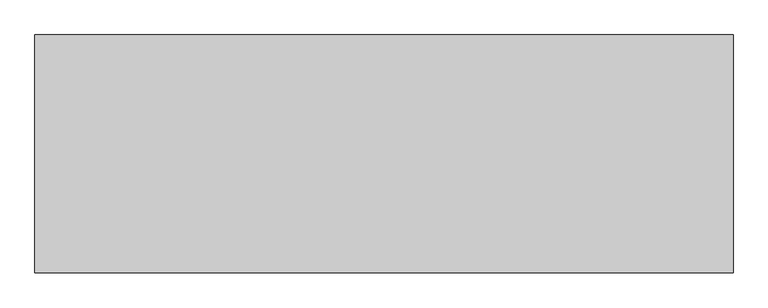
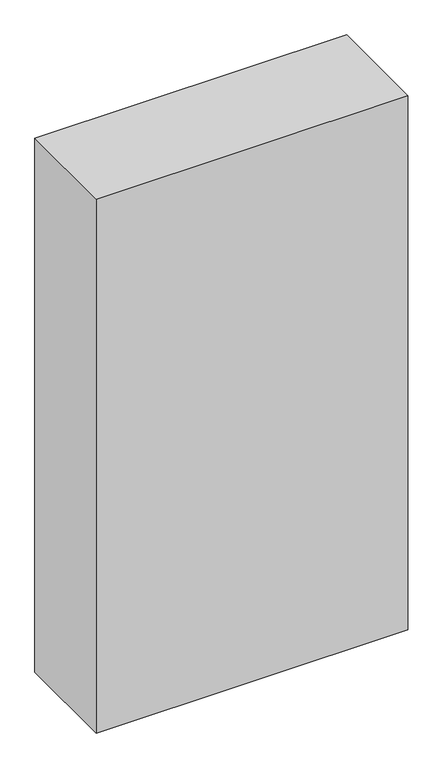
"""IFC4 building model written with IfcOpenShell, lengths in millimetres: proxy geometry."""

from ifc_helpers import new_model, si_unit, frame, origin, place, context, project, spatial, polyline, outline, extrude, source, transform, mapped, element, save


def generic_models_19c42d0f(model_context):
    return source(origin(), model_context, "Body", "SweptSolid", [
        extrude(outline(polyline([(-3641.6181917, -101.0), (-5441.6181917, -101.0), (-5441.6181917, 512.0), (-3641.6181917, 512.0), (-3641.6181917, -101.0)])), frame((0.0, 0.0, -150.0), z_axis=(0.0, 0.0, 1.0), x_axis=(1.0, 0.0, 0.0)), (0.0, 0.0, 1.0), 3260.0),
    ])


if __name__ == "__main__":
    model = new_model("IFC4")
    model_context = context("Model", 3, world=origin())
    ifc_project = project(units=[si_unit("LENGTHUNIT", "METRE", prefix="MILLI")], contexts=[model_context])
    site = spatial("IfcSite", under=ifc_project)
    building = spatial("IfcBuilding", under=site)
    placement = place(None, origin())
    generic_models_shape = generic_models_19c42d0f(model_context)
    element("IfcBuildingElementProxy", 1, Name="Generic Models", at=placement, inside=building, context=model_context, shape_type="MappedRepresentation", body=[
        mapped(generic_models_shape, transform((0.0, 0.0, 0.0), x_axis=(1.0, 0.0, 0.0), y_axis=(0.0, 1.0, 0.0), z_axis=(0.0, 0.0, 1.0))),
    ])
    save(model, "model.ifc")
